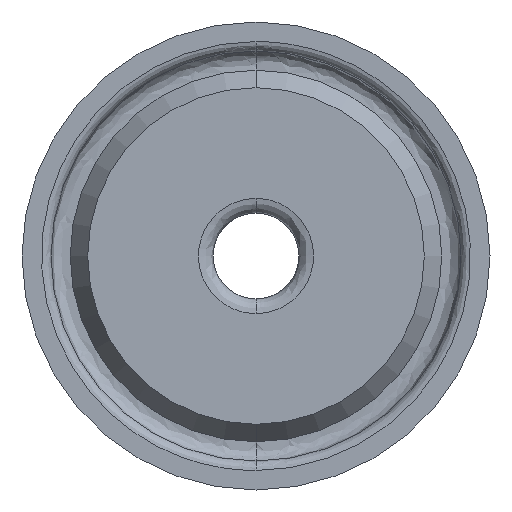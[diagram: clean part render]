
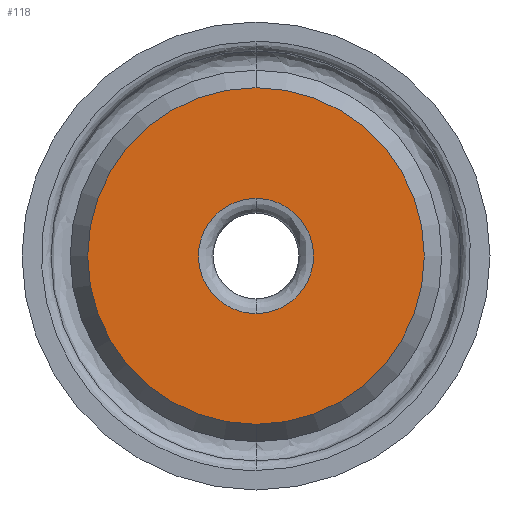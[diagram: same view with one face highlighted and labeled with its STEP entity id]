
A CAD part, left-side view. The second image highlights one B-rep face of the part: STEP entity #118.
In plain terms, the highlighted planar face has unit normal (-1, 0, 0).
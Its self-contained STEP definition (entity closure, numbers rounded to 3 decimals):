
#13 = AXIS2_PLACEMENT_3D ( 'NONE', #322, #727, #376 ) ;
#57 =( BOUNDED_CURVE ( )  B_SPLINE_CURVE ( 3, ( #336, #567, #277, #397 ),
 .UNSPECIFIED., .F., .F. ) 
 B_SPLINE_CURVE_WITH_KNOTS ( ( 4, 4 ),
 ( 0., 1. ),
 .UNSPECIFIED. ) 
 CURVE ( )  GEOMETRIC_REPRESENTATION_ITEM ( )  RATIONAL_B_SPLINE_CURVE ( ( 1., 0.333, 0.333, 1. ) ) 
 REPRESENTATION_ITEM ( '' )  );
#89 = VERTEX_POINT ( 'NONE', #249 ) ;
#118 = ADVANCED_FACE ( 'NONE', ( #313, #187 ), #282, .F. ) ;
#158 = VERTEX_POINT ( 'NONE', #164 ) ;
#164 = CARTESIAN_POINT ( 'NONE',  ( 0.787, 0., 8.987 ) ) ;
#187 = FACE_BOUND ( 'NONE', #234, .T. ) ;
#211 = ORIENTED_EDGE ( 'NONE', *, *, #664, .F. ) ;
#219 = CARTESIAN_POINT ( 'NONE',  ( 0.787, 3.073, 0. ) ) ;
#234 = EDGE_LOOP ( 'NONE', ( #289, #700 ) ) ;
#249 = CARTESIAN_POINT ( 'NONE',  ( 0.787, 0., -8.987 ) ) ;
#277 = CARTESIAN_POINT ( 'NONE',  ( 0.787, 6.147, -3.073 ) ) ;
#282 = PLANE ( 'NONE',  #606 ) ;
#286 = CARTESIAN_POINT ( 'NONE',  ( 0.787, 0., 3.073 ) ) ;
#289 = ORIENTED_EDGE ( 'NONE', *, *, #549, .F. ) ;
#305 = CARTESIAN_POINT ( 'NONE',  ( 0.787, 0., 0. ) ) ;
#312 = EDGE_CURVE ( 'NONE', #413, #435, #57, .T. ) ;
#313 = FACE_OUTER_BOUND ( 'NONE', #464, .T. ) ;
#322 = CARTESIAN_POINT ( 'NONE',  ( 0.787, 0., 0. ) ) ;
#336 = CARTESIAN_POINT ( 'NONE',  ( 0.787, 0., 3.073 ) ) ;
#338 = DIRECTION ( 'NONE',  ( 1., 0., 0. ) ) ;
#360 = DIRECTION ( 'NONE',  ( 0., 0., -1. ) ) ;
#368 = CIRCLE ( 'NONE', #554, 8.987 ) ;
#376 = DIRECTION ( 'NONE',  ( 0., 0., -1. ) ) ;
#389 = EDGE_CURVE ( 'NONE', #89, #158, #632, .T. ) ;
#397 = CARTESIAN_POINT ( 'NONE',  ( 0.787, 0., -3.073 ) ) ;
#413 = VERTEX_POINT ( 'NONE', #622 ) ;
#435 = VERTEX_POINT ( 'NONE', #562 ) ;
#464 = EDGE_LOOP ( 'NONE', ( #707, #211 ) ) ;
#509 = CARTESIAN_POINT ( 'NONE',  ( 0.787, -6.147, -3.073 ) ) ;
#510 =( BOUNDED_CURVE ( )  B_SPLINE_CURVE ( 3, ( #572, #509, #642, #286 ),
 .UNSPECIFIED., .F., .F. ) 
 B_SPLINE_CURVE_WITH_KNOTS ( ( 4, 4 ),
 ( 0., 1. ),
 .UNSPECIFIED. ) 
 CURVE ( )  GEOMETRIC_REPRESENTATION_ITEM ( )  RATIONAL_B_SPLINE_CURVE ( ( 1., 0.333, 0.333, 1. ) ) 
 REPRESENTATION_ITEM ( '' )  );
#549 = EDGE_CURVE ( 'NONE', #435, #413, #510, .T. ) ;
#554 = AXIS2_PLACEMENT_3D ( 'NONE', #305, #709, #360 ) ;
#562 = CARTESIAN_POINT ( 'NONE',  ( 0.787, 0., -3.073 ) ) ;
#567 = CARTESIAN_POINT ( 'NONE',  ( 0.787, 6.147, 3.073 ) ) ;
#572 = CARTESIAN_POINT ( 'NONE',  ( 0.787, 0., -3.073 ) ) ;
#606 = AXIS2_PLACEMENT_3D ( 'NONE', #219, #338, #746 ) ;
#622 = CARTESIAN_POINT ( 'NONE',  ( 0.787, 0., 3.073 ) ) ;
#632 = CIRCLE ( 'NONE', #13, 8.987 ) ;
#642 = CARTESIAN_POINT ( 'NONE',  ( 0.787, -6.147, 3.073 ) ) ;
#664 = EDGE_CURVE ( 'NONE', #158, #89, #368, .T. ) ;
#700 = ORIENTED_EDGE ( 'NONE', *, *, #312, .F. ) ;
#707 = ORIENTED_EDGE ( 'NONE', *, *, #389, .F. ) ;
#709 = DIRECTION ( 'NONE',  ( 1., 0., 0. ) ) ;
#727 = DIRECTION ( 'NONE',  ( 1., 0., 0. ) ) ;
#746 = DIRECTION ( 'NONE',  ( 0., 0., -1. ) ) ;
